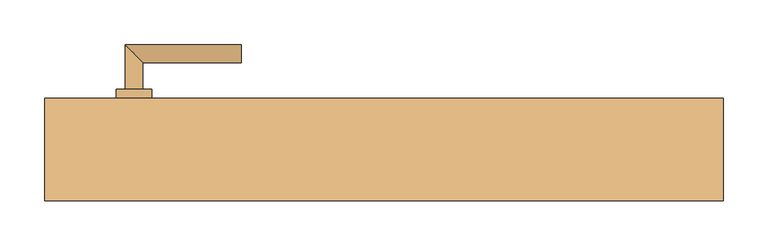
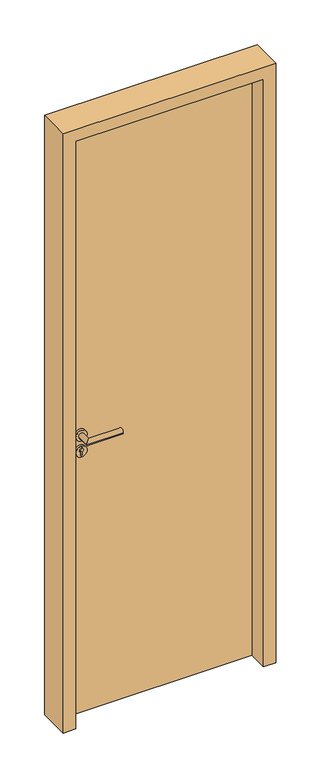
"""IFC4 building model written with IfcOpenShell, lengths in millimetres: door geometry, TU DF 1 - Rahmenstock flächenbündig variabel : ML - H - 885 x 2260."""

from ifc_helpers import new_model, si_unit, point, frame, frame_2d, origin, origin_with_axes, place, context, project, spatial, polyline, circle_curve, ellipse_curve, trimmed, segment, composite_curve, outline, extrude, faceted_brep, source, transform, mapped, element, save
from ifc_brep_helpers import plane_surface, cylinder_surface, advanced_brep


def door_d76ddd33(model_context):
    return source(origin(), model_context, "Body", "SolidModel", [
        extrude(outline(polyline([(346.0, 57.5), (346.0, 12.5), (-346.0, 12.5), (-346.0, 57.5), (346.0, 57.5)])), origin_with_axes(), (0.0, 0.0, 1.0), 2226.0),
        advanced_brep(
        [(-270.0, 67.5, 1050.0), (-290.0, 67.5, 1050.0), (-270.0, 97.5, 1050.0), (-290.0, 117.5, 1050.0), (-160.0, 97.5, 1050.0), (-160.0, 117.5, 1050.0)],
        [
            (0, 1, circle_curve(frame((-280.0, 67.5, 1050.0), z_axis=(0.0, -1.0, 0.0), x_axis=(-1.0, 0.0, 0.0)), 10.0)),
            (1, 0, circle_curve(frame((-280.0, 67.5, 1050.0), z_axis=(0.0, -1.0, 0.0), x_axis=(-1.0, 0.0, 0.0)), 10.0)),
            (0, 2),
            (2, 3, ellipse_curve(frame((-280.0, 107.5, 1050.0), z_axis=(-0.7071067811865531, -0.7071067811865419, 0.0), x_axis=(0.707106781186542, -0.707106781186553, 0.0)), 14.1421356, 10.0)),
            (3, 1),
            (3, 2, ellipse_curve(frame((-280.0, 107.5, 1050.0), z_axis=(-0.7071067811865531, -0.7071067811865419, 0.0), x_axis=(0.707106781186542, -0.707106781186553, 0.0)), 14.1421356, 10.0)),
            (4, 5, circle_curve(frame((-160.0, 107.5, 1050.0), z_axis=(1.0, 0.0, 0.0), x_axis=(0.0, 1.0, 0.0)), 10.0)),
            (5, 4, circle_curve(frame((-160.0, 107.5, 1050.0), z_axis=(1.0, 0.0, 0.0), x_axis=(0.0, 1.0, 0.0)), 10.0)),
            (2, 4),
            (5, 3),
        ],
        [
            plane_surface(frame((-280.0, 67.5, 1050.0), z_axis=(0.0, -1.0, 0.0), x_axis=(0.0, 0.0, 1.0))),
            cylinder_surface(frame((-280.0, 67.5, 1050.0), z_axis=(0.0, -1.0, 0.0), x_axis=(-1.0, 0.0, 0.0)), 10.0),
            plane_surface(frame((-160.0, 107.5, 1050.0), z_axis=(1.0, 0.0, 0.0), x_axis=(0.0, 0.0, 1.0))),
            cylinder_surface(frame((-280.0, 107.5, 1050.0), z_axis=(-1.0, 0.0, 0.0), x_axis=(0.0, 1.0, 0.0)), 10.0),
        ],
        [
            (0, [[1, 2]]),
            (1, [[-1, 3, 4, 5]]),
            (1, [[-2, -5, 6, -3]]),
            (2, [[7, 8]]),
            (3, [[-4, 9, -8, 10]]),
            (3, [[-6, -10, -7, -9]]),
        ],
    ),
        extrude(outline(composite_curve([segment(trimmed(circle_curve(frame_2d((990.0, -280.0)), 20.0), [point((990.0, -300.0))], [point((990.0, -260.0))], False, "CARTESIAN"), True, "CONTINUOUS"), segment(trimmed(circle_curve(frame_2d((990.0, -280.0)), 20.0), [point((990.0, -260.0))], [point((990.0, -300.0))], False, "CARTESIAN"), True, "CONTINUOUS")], self_intersect=False), holes=[composite_curve([segment(polyline([(976.4601385, -282.397268), (988.4749012, -282.397268)]), True, "CONTINUOUS"), segment(trimmed(circle_curve(frame_2d((995.0361633, -280.0)), 6.9854888), [point((988.4749012, -282.397268))], [point((988.4749012, -277.602732))], True, "CARTESIAN"), True, "CONTINUOUS"), segment(polyline([(988.4749012, -277.602732), (976.4601385, -277.602732)]), True, "CONTINUOUS"), segment(trimmed(circle_curve(frame_2d((976.4601385, -280.0)), 2.397268), [point((976.4601385, -277.602732))], [point((976.4601385, -282.397268))], True, "CARTESIAN"), True, "CONTINUOUS")], self_intersect=False)]), frame((0.0, 57.5, 0.0), z_axis=(0.0, 1.0, 0.0), x_axis=(0.0, 0.0, 1.0)), (0.0, 0.0, 1.0), 10.0),
        advanced_brep(
        [(-270.0, 67.5, 1050.0), (-290.0, 67.5, 1050.0), (-270.0, 97.5, 1050.0), (-290.0, 117.5, 1050.0), (-160.0, 97.5, 1050.0), (-160.0, 117.5, 1050.0)],
        [
            (0, 1, circle_curve(frame((-280.0, 67.5, 1050.0), z_axis=(0.0, -1.0, 0.0), x_axis=(-1.0, 0.0, 0.0)), 10.0)),
            (1, 0, circle_curve(frame((-280.0, 67.5, 1050.0), z_axis=(0.0, -1.0, 0.0), x_axis=(-1.0, 0.0, 0.0)), 10.0)),
            (0, 2),
            (2, 3, ellipse_curve(frame((-280.0, 107.5, 1050.0), z_axis=(-0.7071067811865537, -0.7071067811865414, 0.0), x_axis=(0.7071067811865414, -0.7071067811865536, 0.0)), 14.1421356, 10.0)),
            (3, 1),
            (3, 2, ellipse_curve(frame((-280.0, 107.5, 1050.0), z_axis=(-0.7071067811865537, -0.7071067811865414, 0.0), x_axis=(0.7071067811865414, -0.7071067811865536, 0.0)), 14.1421356, 10.0)),
            (4, 5, circle_curve(frame((-160.0, 107.5, 1050.0), z_axis=(1.0, 0.0, 0.0), x_axis=(0.0, 1.0, 0.0)), 10.0)),
            (5, 4, circle_curve(frame((-160.0, 107.5, 1050.0), z_axis=(1.0, 0.0, 0.0), x_axis=(0.0, 1.0, 0.0)), 10.0)),
            (2, 4),
            (5, 3),
        ],
        [
            plane_surface(frame((-280.0, 67.5, 1050.0), z_axis=(0.0, -1.0, 0.0), x_axis=(0.0, 0.0, 1.0))),
            cylinder_surface(frame((-280.0, 67.5, 1050.0), z_axis=(0.0, -1.0, 0.0), x_axis=(-1.0, 0.0, 0.0)), 10.0),
            plane_surface(frame((-160.0, 107.5, 1050.0), z_axis=(1.0, 0.0, 0.0), x_axis=(0.0, 0.0, 1.0))),
            cylinder_surface(frame((-280.0, 107.5, 1050.0), z_axis=(-1.0, 0.0, 0.0), x_axis=(0.0, 1.0, 0.0)), 10.0),
        ],
        [
            (0, [[1, 2]]),
            (1, [[-1, 3, 4, 5]]),
            (1, [[-2, -5, 6, -3]]),
            (2, [[7, 8]]),
            (3, [[-4, 9, -8, 10]]),
            (3, [[-6, -10, -7, -9]]),
        ],
    ),
        extrude(outline(composite_curve([segment(trimmed(circle_curve(frame_2d((1050.0, -280.0)), 20.0), [point((1050.0, -300.0))], [point((1050.0, -260.0))], False, "CARTESIAN"), True, "CONTINUOUS"), segment(trimmed(circle_curve(frame_2d((1050.0, -280.0)), 20.0), [point((1050.0, -260.0))], [point((1050.0, -300.0))], False, "CARTESIAN"), True, "CONTINUOUS")], self_intersect=False)), frame((0.0, 57.5, 0.0), z_axis=(0.0, 1.0, 0.0), x_axis=(0.0, 0.0, 1.0)), (0.0, 0.0, 1.0), 10.0),
        advanced_brep(
        [(-270.0, 2.5, 1050.0), (-290.0, 2.5, 1050.0), (-290.0, -47.5, 1050.0), (-270.0, -27.5, 1050.0), (-160.0, -27.5, 1050.0), (-160.0, -47.5, 1050.0)],
        [
            (0, 1, circle_curve(frame((-280.0, 2.5, 1050.0), z_axis=(0.0, 1.0, 0.0), x_axis=(-1.0, 0.0, 0.0)), 10.0)),
            (1, 0, circle_curve(frame((-280.0, 2.5, 1050.0), z_axis=(0.0, 1.0, 0.0), x_axis=(-1.0, 0.0, 0.0)), 10.0)),
            (1, 2),
            (2, 3, ellipse_curve(frame((-280.0, -37.5, 1050.0), z_axis=(-0.7071067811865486, 0.7071067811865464, 0.0), x_axis=(0.7071067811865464, 0.7071067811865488, 0.0)), 14.1421356, 10.0)),
            (3, 0),
            (3, 2, ellipse_curve(frame((-280.0, -37.5, 1050.0), z_axis=(-0.7071067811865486, 0.7071067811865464, 0.0), x_axis=(0.7071067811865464, 0.7071067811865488, 0.0)), 14.1421356, 10.0)),
            (4, 5, circle_curve(frame((-160.0, -37.5, 1050.0), z_axis=(1.0, 0.0, 0.0), x_axis=(0.0, -1.0, 0.0)), 10.0)),
            (5, 4, circle_curve(frame((-160.0, -37.5, 1050.0), z_axis=(1.0, 0.0, 0.0), x_axis=(0.0, -1.0, 0.0)), 10.0)),
            (2, 5),
            (4, 3),
        ],
        [
            plane_surface(frame((-280.0, 2.5, 1050.0), z_axis=(0.0, 1.0, 0.0), x_axis=(0.0, 0.0, 1.0))),
            cylinder_surface(frame((-280.0, 2.5, 1050.0), z_axis=(0.0, 1.0, 0.0), x_axis=(-1.0, 0.0, 0.0)), 10.0),
            plane_surface(frame((-160.0, -37.5, 1050.0), z_axis=(1.0, 0.0, 0.0), x_axis=(0.0, 0.0, 1.0))),
            cylinder_surface(frame((-280.0, -37.5, 1050.0), z_axis=(-1.0, 0.0, 0.0), x_axis=(0.0, -1.0, 0.0)), 10.0),
        ],
        [
            (0, [[1, 2]]),
            (1, [[3, 4, 5, -2]]),
            (1, [[-5, 6, -3, -1]]),
            (2, [[7, 8]]),
            (3, [[9, -7, 10, -4]]),
            (3, [[-10, -8, -9, -6]]),
        ],
    ),
        extrude(outline(composite_curve([segment(trimmed(circle_curve(frame_2d((990.0, -280.0)), 20.0), [point((990.0, -300.0))], [point((990.0, -260.0))], False, "CARTESIAN"), True, "CONTINUOUS"), segment(trimmed(circle_curve(frame_2d((990.0, -280.0)), 20.0), [point((990.0, -260.0))], [point((990.0, -300.0))], False, "CARTESIAN"), True, "CONTINUOUS")], self_intersect=False), holes=[composite_curve([segment(polyline([(976.4601385, -282.397268), (988.4749012, -282.397268)]), True, "CONTINUOUS"), segment(trimmed(circle_curve(frame_2d((995.0361633, -280.0)), 6.9854888), [point((988.4749012, -282.397268))], [point((988.4749012, -277.602732))], True, "CARTESIAN"), True, "CONTINUOUS"), segment(polyline([(988.4749012, -277.602732), (976.4601385, -277.602732)]), True, "CONTINUOUS"), segment(trimmed(circle_curve(frame_2d((976.4601385, -280.0)), 2.397268), [point((976.4601385, -277.602732))], [point((976.4601385, -282.397268))], True, "CARTESIAN"), True, "CONTINUOUS")], self_intersect=False)]), frame((0.0, 2.5, 0.0), z_axis=(0.0, 1.0, 0.0), x_axis=(0.0, 0.0, 1.0)), (0.0, 0.0, 1.0), 10.0),
        advanced_brep(
        [(-270.0, 2.5, 1050.0), (-290.0, 2.5, 1050.0), (-290.0, -47.5, 1050.0), (-270.0, -27.5, 1050.0), (-160.0, -27.5, 1050.0), (-160.0, -47.5, 1050.0)],
        [
            (0, 1, circle_curve(frame((-280.0, 2.5, 1050.0), z_axis=(0.0, 1.0, 0.0), x_axis=(-1.0, 0.0, 0.0)), 10.0)),
            (1, 0, circle_curve(frame((-280.0, 2.5, 1050.0), z_axis=(0.0, 1.0, 0.0), x_axis=(-1.0, 0.0, 0.0)), 10.0)),
            (1, 2),
            (2, 3, ellipse_curve(frame((-280.0, -37.5, 1050.0), z_axis=(-0.7071067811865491, 0.7071067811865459, 0.0), x_axis=(0.7071067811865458, 0.7071067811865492, 0.0)), 14.1421356, 10.0)),
            (3, 0),
            (3, 2, ellipse_curve(frame((-280.0, -37.5, 1050.0), z_axis=(-0.7071067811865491, 0.7071067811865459, 0.0), x_axis=(0.7071067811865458, 0.7071067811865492, 0.0)), 14.1421356, 10.0)),
            (4, 5, circle_curve(frame((-160.0, -37.5, 1050.0), z_axis=(1.0, 0.0, 0.0), x_axis=(0.0, -1.0, 0.0)), 10.0)),
            (5, 4, circle_curve(frame((-160.0, -37.5, 1050.0), z_axis=(1.0, 0.0, 0.0), x_axis=(0.0, -1.0, 0.0)), 10.0)),
            (2, 5),
            (4, 3),
        ],
        [
            plane_surface(frame((-280.0, 2.5, 1050.0), z_axis=(0.0, 1.0, 0.0), x_axis=(0.0, 0.0, 1.0))),
            cylinder_surface(frame((-280.0, 2.5, 1050.0), z_axis=(0.0, 1.0, 0.0), x_axis=(-1.0, 0.0, 0.0)), 10.0),
            plane_surface(frame((-160.0, -37.5, 1050.0), z_axis=(1.0, 0.0, 0.0), x_axis=(0.0, 0.0, 1.0))),
            cylinder_surface(frame((-280.0, -37.5, 1050.0), z_axis=(-1.0, 0.0, 0.0), x_axis=(0.0, -1.0, 0.0)), 10.0),
        ],
        [
            (0, [[1, 2]]),
            (1, [[3, 4, 5, -2]]),
            (1, [[-5, 6, -3, -1]]),
            (2, [[7, 8]]),
            (3, [[9, -7, 10, -4]]),
            (3, [[-10, -8, -9, -6]]),
        ],
    ),
        extrude(outline(composite_curve([segment(trimmed(circle_curve(frame_2d((1050.0, -280.0)), 20.0), [point((1050.0, -300.0))], [point((1050.0, -260.0))], False, "CARTESIAN"), True, "CONTINUOUS"), segment(trimmed(circle_curve(frame_2d((1050.0, -280.0)), 20.0), [point((1050.0, -260.0))], [point((1050.0, -300.0))], False, "CARTESIAN"), True, "CONTINUOUS")], self_intersect=False)), frame((0.0, 2.5, 0.0), z_axis=(0.0, 1.0, 0.0), x_axis=(0.0, 0.0, 1.0)), (0.0, 0.0, 1.0), 10.0),
        faceted_brep([(-350.0, 57.5, 0.0), (-350.0, 12.5, 0.0), (-335.0, 12.5, 0.0), (-335.0, -57.5, 0.0), (-380.0, -57.5, 0.0), (-380.0, 57.5, 0.0), (-350.0, 57.5, 2230.0), (-350.0, 12.5, 2230.0), (350.0, 12.5, 2230.0), (350.0, 12.5, 0.0), (335.0, 12.5, 0.0), (335.0, 12.5, 2215.0), (-335.0, 12.5, 2215.0), (-335.0, -57.5, 2215.0), (335.0, -57.5, 2215.0), (335.0, -57.5, 0.0), (380.0, -57.5, 0.0), (380.0, -57.5, 2260.0), (-380.0, -57.5, 2260.0), (-380.0, 57.5, 2260.0), (380.0, 57.5, 2260.0), (380.0, 57.5, 0.0), (350.0, 57.5, 0.0), (350.0, 57.5, 2230.0)], [[[0, 1, 2, 3, 4, 5]], [[1, 0, 6, 7]], [[2, 1, 7, 8, 9, 10, 11, 12]], [[3, 2, 12, 13]], [[4, 3, 13, 14, 15, 16, 17, 18]], [[5, 4, 18, 19]], [[0, 5, 19, 20, 21, 22, 23, 6]], [[20, 17, 16, 21]], [[22, 21, 16, 15, 10, 9]], [[8, 23, 22, 9]], [[14, 11, 10, 15]], [[19, 18, 17, 20]], [[13, 12, 11, 14]], [[7, 6, 23, 8]]]),
    ])


if __name__ == "__main__":
    model = new_model("IFC4")
    model_context = context("Model", 3, world=origin())
    ifc_project = project(units=[si_unit("LENGTHUNIT", "METRE", prefix="MILLI")], contexts=[model_context])
    site = spatial("IfcSite", under=ifc_project)
    building = spatial("IfcBuilding", under=site)
    placement = place(None, origin())
    door_shape = door_d76ddd33(model_context)
    element("IfcDoor", 1, ObjectType="TU DF 1 - Rahmenstock flächenbündig variabel : ML - H - 885 x 2260", at=placement, inside=building, context=model_context, shape_type="MappedRepresentation", body=[
        mapped(door_shape, transform((0.0, 0.0, 0.0), x_axis=(1.0, 0.0, 0.0), y_axis=(0.0, 1.0, 0.0), z_axis=(0.0, 0.0, 1.0))),
    ])
    save(model, "model.ifc")
